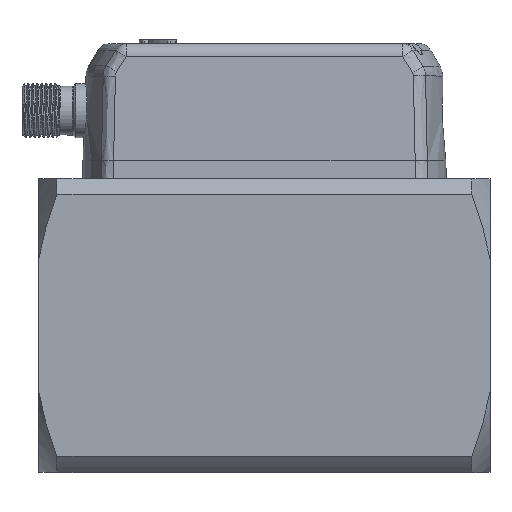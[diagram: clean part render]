
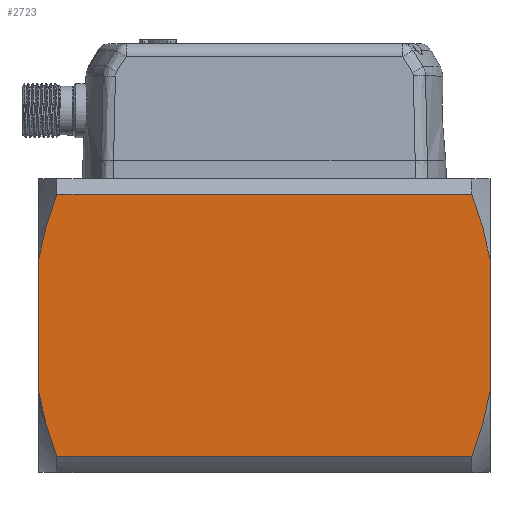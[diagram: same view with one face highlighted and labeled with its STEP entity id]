
A CAD part, top view. The second image highlights one B-rep face of the part: STEP entity #2723.
In plain terms, the highlighted planar face has unit normal (0, 0, 1).
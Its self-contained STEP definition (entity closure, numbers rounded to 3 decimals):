
#1094=B_SPLINE_CURVE_WITH_KNOTS('',3,(#28758,#28759,#28760,#28761),
 .UNSPECIFIED.,.F.,.F.,(4,4),(0.,1.),.UNSPECIFIED.);
#1095=B_SPLINE_CURVE_WITH_KNOTS('',3,(#28772,#28773,#28774,#28775),
 .UNSPECIFIED.,.F.,.F.,(4,4),(0.,1.),.UNSPECIFIED.);
#1096=B_SPLINE_CURVE_WITH_KNOTS('',3,(#28779,#28780,#28781,#28782),
 .UNSPECIFIED.,.F.,.F.,(4,4),(0.,1.),.UNSPECIFIED.);
#1097=B_SPLINE_CURVE_WITH_KNOTS('',3,(#28785,#28786,#28787,#28788),
 .UNSPECIFIED.,.F.,.F.,(4,4),(0.,1.),.UNSPECIFIED.);
#2053=PLANE('',#20622);
#2723=ADVANCED_FACE('',(#3950),#2053,.T.);
#3950=FACE_OUTER_BOUND('',#5047,.T.);
#5047=EDGE_LOOP('',(#10575,#10576,#10577,#10578,#10579,#10580,#10581,#10582));
#6270=LINE('',#28765,#7906);
#6271=LINE('',#28769,#7907);
#6272=LINE('',#28777,#7908);
#6273=LINE('',#28783,#7909);
#7906=VECTOR('',#22624,1.);
#7907=VECTOR('',#22629,1.);
#7908=VECTOR('',#22630,1.);
#7909=VECTOR('',#22631,1.);
#10575=ORIENTED_EDGE('',*,*,#17479,.F.);
#10576=ORIENTED_EDGE('',*,*,#17480,.T.);
#10577=ORIENTED_EDGE('',*,*,#17481,.F.);
#10578=ORIENTED_EDGE('',*,*,#17482,.T.);
#10579=ORIENTED_EDGE('',*,*,#17477,.F.);
#10580=ORIENTED_EDGE('',*,*,#17475,.F.);
#10581=ORIENTED_EDGE('',*,*,#17483,.T.);
#10582=ORIENTED_EDGE('',*,*,#17484,.F.);
#15443=VERTEX_POINT('',#28757);
#15444=VERTEX_POINT('',#28762);
#15445=VERTEX_POINT('',#28766);
#15446=VERTEX_POINT('',#28770);
#15447=VERTEX_POINT('',#28771);
#15448=VERTEX_POINT('',#28776);
#15449=VERTEX_POINT('',#28778);
#15450=VERTEX_POINT('',#28784);
#17475=EDGE_CURVE('',#15443,#15444,#1094,.T.);
#17477=EDGE_CURVE('',#15444,#15445,#6270,.T.);
#17479=EDGE_CURVE('',#15446,#15447,#6271,.T.);
#17480=EDGE_CURVE('',#15446,#15448,#1095,.T.);
#17481=EDGE_CURVE('',#15449,#15448,#6272,.T.);
#17482=EDGE_CURVE('',#15449,#15445,#1096,.T.);
#17483=EDGE_CURVE('',#15443,#15450,#6273,.T.);
#17484=EDGE_CURVE('',#15447,#15450,#1097,.T.);
#20622=AXIS2_PLACEMENT_3D('',#28789,#22632,#22633);
#22624=DIRECTION('',(1.,0.,0.));
#22629=DIRECTION('',(-1.,0.,0.));
#22630=DIRECTION('',(0.,-1.,0.));
#22631=DIRECTION('',(0.,-1.,0.));
#22632=DIRECTION('',(0.,0.,1.));
#22633=DIRECTION('',(-1.,0.,0.));
#28757=CARTESIAN_POINT('',(-5.,-12.349,-87.));
#28758=CARTESIAN_POINT('',(-5.,-12.349,-87.));
#28759=CARTESIAN_POINT('',(-4.214,-7.391,-87.));
#28760=CARTESIAN_POINT('',(-2.723,-2.632,-87.));
#28761=CARTESIAN_POINT('',(-0.959,2.051,-87.));
#28762=CARTESIAN_POINT('',(-0.959,2.051,-87.));
#28765=CARTESIAN_POINT('',(-5.,2.051,-87.));
#28766=CARTESIAN_POINT('',(90.959,2.051,-87.));
#28769=CARTESIAN_POINT('',(95.,-56.031,-87.));
#28770=CARTESIAN_POINT('',(90.959,-56.031,-87.));
#28771=CARTESIAN_POINT('',(-0.959,-56.031,-87.));
#28772=CARTESIAN_POINT('',(90.959,-56.031,-87.));
#28773=CARTESIAN_POINT('',(92.723,-51.348,-87.));
#28774=CARTESIAN_POINT('',(94.214,-46.589,-87.));
#28775=CARTESIAN_POINT('',(95.,-41.631,-87.));
#28776=CARTESIAN_POINT('',(95.,-41.631,-87.));
#28777=CARTESIAN_POINT('',(95.,-5.449,-87.));
#28778=CARTESIAN_POINT('',(95.,-12.349,-87.));
#28779=CARTESIAN_POINT('',(95.,-12.349,-87.));
#28780=CARTESIAN_POINT('',(94.214,-7.391,-87.));
#28781=CARTESIAN_POINT('',(92.723,-2.632,-87.));
#28782=CARTESIAN_POINT('',(90.959,2.051,-87.));
#28783=CARTESIAN_POINT('',(-5.,-5.449,-87.));
#28784=CARTESIAN_POINT('',(-5.,-41.631,-87.));
#28785=CARTESIAN_POINT('',(-0.959,-56.031,-87.));
#28786=CARTESIAN_POINT('',(-2.723,-51.348,-87.));
#28787=CARTESIAN_POINT('',(-4.214,-46.589,-87.));
#28788=CARTESIAN_POINT('',(-5.,-41.631,-87.));
#28789=CARTESIAN_POINT('',(95.,-1.99,-87.));
